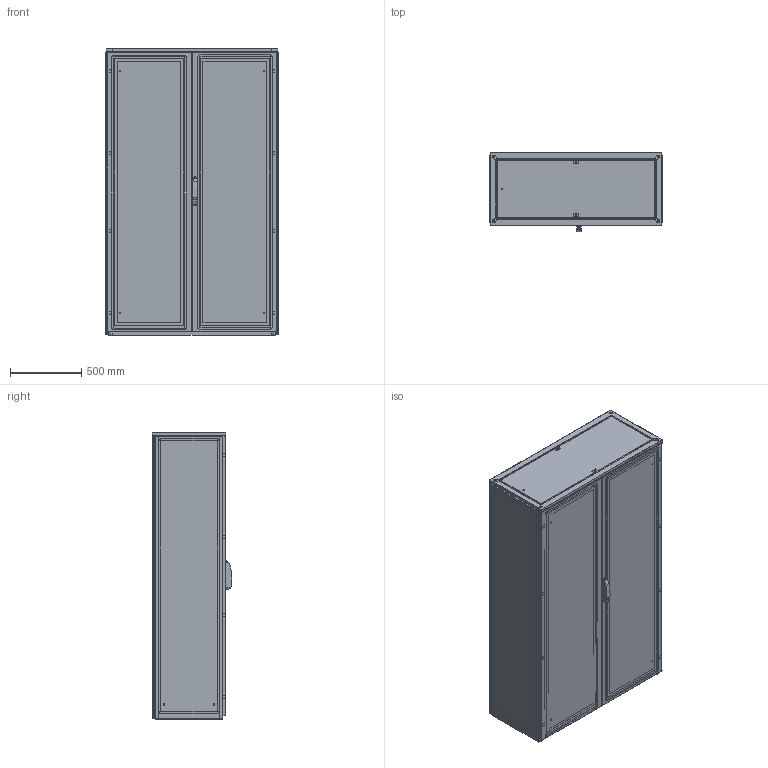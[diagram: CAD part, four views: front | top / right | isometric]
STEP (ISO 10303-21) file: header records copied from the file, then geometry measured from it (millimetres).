
FILE_DESCRIPTION(/* description */ ('STEP AP214'),/* implementation_level */ '2;1');
FILE_NAME(/* name */ 'ENUX122005PR -LOD350',/* time_stamp */ '2025-10-06T09:35:39+02:00',/* author */ ('License CC BY-ND 4.0'),/* organization */ ('CADENAS'),/* preprocessor_version */ 'ST-DEVELOPER v19.3',/* originating_system */ 'PARTsolutions',/* authorisation */ ' ');
FILE_SCHEMA (('AUTOMOTIVE_DESIGN {1 0 10303 214 3 1 1}'));
Length unit declared in the file: millimetre
Products named in the file (11): ENUX122005PR  -LOD350; ENUX122005PR  -LOD3501; ENUX122005PR  -LOD3507; ENUX122005PR  -LOD3502; ENUX122005PR  -LOD35011; ENUX122005PR  -LOD3503; ENUX122005PR  -LOD3508; ENUX122005PR  -LOD3505; ENUX122005PR  -LOD3504; ENUX122005PR  -LOD35010; ENUX122005PR  -LOD3509
Assembly tree (17 placements, depth 2):
  ENUX122005PR  -LOD350
    ENUX122005PR  -LOD3501
    ENUX122005PR  -LOD3507  x2
    ENUX122005PR  -LOD3502
    ENUX122005PR  -LOD35011
    ENUX122005PR  -LOD3503
    ENUX122005PR  -LOD3508
    ENUX122005PR  -LOD3505
    ENUX122005PR  -LOD3504
    ENUX122005PR  -LOD35010  x4
    ENUX122005PR  -LOD3509  x4
Bounding box: 1212 x 557 x 2008.5 mm (x, y, z)
Volume: 28747511.4 mm3; surface area: 23795967.5 mm2
Topology: 17 solids, 24 shells, 1518 faces, 4087 edges, 2672 vertices
Faces by surface type: plane 912, cylinder 556, torus 30, cone 12, sphere 8
Full cylindrical faces by diameter (mm): 6 x15, 9 x13, 12 x4, 14 x2, 17 x2, 28 x2
Entity records: 36582 total; most frequent: CARTESIAN_POINT 6695, DIRECTION 6211, ORIENTED_EDGE 6118, EDGE_CURVE 3059, AXIS2_PLACEMENT_3D 2071, LINE 2069, VECTOR 2069, VERTEX_POINT 2022
